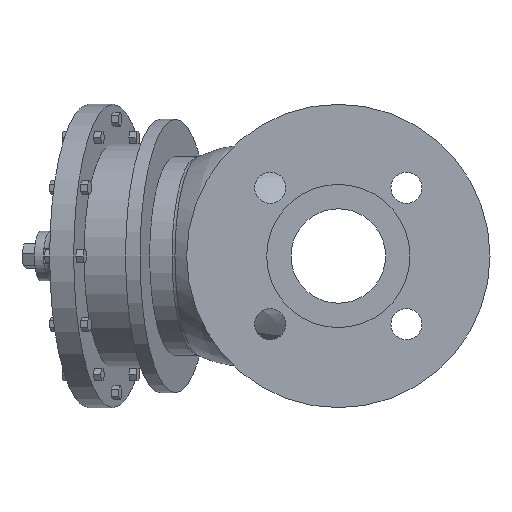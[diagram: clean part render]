
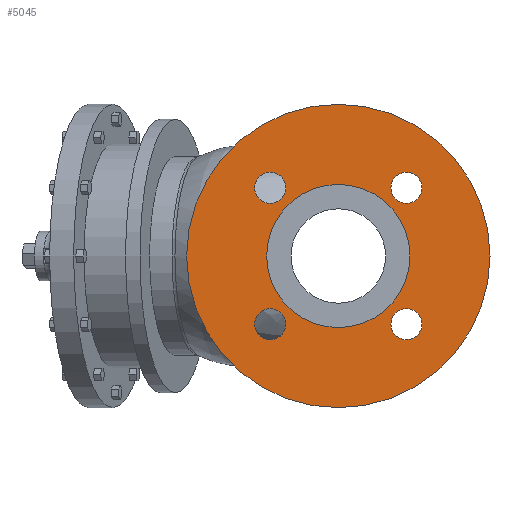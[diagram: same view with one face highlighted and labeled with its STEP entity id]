
A CAD part, left-side view. The second image highlights one B-rep face of the part: STEP entity #5045.
In plain terms, the highlighted planar face has unit normal (-1, 0, 0).
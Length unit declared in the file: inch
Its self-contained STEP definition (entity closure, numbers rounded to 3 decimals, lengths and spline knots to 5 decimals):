
#256=PLANE('',#5393);
#303=FACE_BOUND('',#928,.T.);
#304=FACE_BOUND('',#929,.T.);
#305=FACE_BOUND('',#930,.T.);
#306=FACE_BOUND('',#931,.T.);
#307=FACE_BOUND('',#932,.T.);
#629=FACE_OUTER_BOUND('',#927,.T.);
#927=EDGE_LOOP('',(#4456,#4457));
#928=EDGE_LOOP('',(#4458));
#929=EDGE_LOOP('',(#4459));
#930=EDGE_LOOP('',(#4460));
#931=EDGE_LOOP('',(#4461));
#932=EDGE_LOOP('',(#4462,#4463));
#1994=CIRCLE('',#5074,0.3125);
#1996=CIRCLE('',#5077,0.3125);
#1998=CIRCLE('',#5080,0.3125);
#2000=CIRCLE('',#5083,0.3125);
#2073=CIRCLE('',#5391,1.44);
#2074=CIRCLE('',#5392,1.44);
#2075=CIRCLE('',#5394,3.05);
#2076=CIRCLE('',#5395,3.05);
#2087=VERTEX_POINT('',#6655);
#2089=VERTEX_POINT('',#6661);
#2091=VERTEX_POINT('',#6667);
#2093=VERTEX_POINT('',#6673);
#2522=VERTEX_POINT('',#9152);
#2523=VERTEX_POINT('',#9153);
#2524=VERTEX_POINT('',#9158);
#2525=VERTEX_POINT('',#9159);
#2536=EDGE_CURVE('',#2087,#2087,#1994,.T.);
#2539=EDGE_CURVE('',#2089,#2089,#1996,.T.);
#2542=EDGE_CURVE('',#2091,#2091,#1998,.T.);
#2545=EDGE_CURVE('',#2093,#2093,#2000,.T.);
#3176=EDGE_CURVE('',#2522,#2523,#2073,.T.);
#3177=EDGE_CURVE('',#2523,#2522,#2074,.T.);
#3179=EDGE_CURVE('',#2524,#2525,#2075,.T.);
#3180=EDGE_CURVE('',#2525,#2524,#2076,.T.);
#4456=ORIENTED_EDGE('',*,*,#3179,.F.);
#4457=ORIENTED_EDGE('',*,*,#3180,.F.);
#4458=ORIENTED_EDGE('',*,*,#2536,.T.);
#4459=ORIENTED_EDGE('',*,*,#2539,.T.);
#4460=ORIENTED_EDGE('',*,*,#2542,.T.);
#4461=ORIENTED_EDGE('',*,*,#2545,.T.);
#4462=ORIENTED_EDGE('',*,*,#3176,.T.);
#4463=ORIENTED_EDGE('',*,*,#3177,.T.);
#5045=ADVANCED_FACE('',(#629,#303,#304,#305,#306,#307),#256,.T.);
#5074=AXIS2_PLACEMENT_3D('',#6656,#5430,#5431);
#5077=AXIS2_PLACEMENT_3D('',#6662,#5437,#5438);
#5080=AXIS2_PLACEMENT_3D('',#6668,#5444,#5445);
#5083=AXIS2_PLACEMENT_3D('',#6674,#5451,#5452);
#5391=AXIS2_PLACEMENT_3D('',#9154,#6579,#6580);
#5392=AXIS2_PLACEMENT_3D('',#9155,#6581,#6582);
#5393=AXIS2_PLACEMENT_3D('',#9157,#6584,#6585);
#5394=AXIS2_PLACEMENT_3D('',#9160,#6586,#6587);
#5395=AXIS2_PLACEMENT_3D('',#9161,#6588,#6589);
#5430=DIRECTION('center_axis',(1.,0.,0.));
#5431=DIRECTION('ref_axis',(0.,1.,0.));
#5437=DIRECTION('center_axis',(1.,0.,0.));
#5438=DIRECTION('ref_axis',(0.,0.,-1.));
#5444=DIRECTION('center_axis',(1.,0.,0.));
#5445=DIRECTION('ref_axis',(0.,-1.,0.));
#5451=DIRECTION('center_axis',(1.,0.,0.));
#5452=DIRECTION('ref_axis',(0.,0.,1.));
#6579=DIRECTION('center_axis',(1.,0.,0.));
#6580=DIRECTION('ref_axis',(0.,0.,-1.));
#6581=DIRECTION('center_axis',(1.,0.,0.));
#6582=DIRECTION('ref_axis',(0.,0.,-1.));
#6584=DIRECTION('center_axis',(-1.,0.,0.));
#6585=DIRECTION('ref_axis',(0.,0.,1.));
#6586=DIRECTION('center_axis',(1.,0.,0.));
#6587=DIRECTION('ref_axis',(0.,0.,-1.));
#6588=DIRECTION('center_axis',(1.,0.,0.));
#6589=DIRECTION('ref_axis',(0.,0.,-1.));
#6655=CARTESIAN_POINT('',(-3.975,-1.68252,-1.37002));
#6656=CARTESIAN_POINT('Origin',(-3.975,-1.37002,-1.37002));
#6661=CARTESIAN_POINT('',(-3.975,-1.37002,1.68252));
#6662=CARTESIAN_POINT('Origin',(-3.975,-1.37002,1.37002));
#6667=CARTESIAN_POINT('',(-3.975,1.68252,1.37002));
#6668=CARTESIAN_POINT('Origin',(-3.975,1.37002,1.37002));
#6673=CARTESIAN_POINT('',(-3.975,1.37002,-1.68252));
#6674=CARTESIAN_POINT('Origin',(-3.975,1.37002,-1.37002));
#9152=CARTESIAN_POINT('',(-3.975,1.44,0.));
#9153=CARTESIAN_POINT('',(-3.975,-1.44,0.));
#9154=CARTESIAN_POINT('Origin',(-3.975,0.,0.));
#9155=CARTESIAN_POINT('Origin',(-3.975,0.,0.));
#9157=CARTESIAN_POINT('Origin',(-3.975,3.05,0.));
#9158=CARTESIAN_POINT('',(-3.975,3.05,0.));
#9159=CARTESIAN_POINT('',(-3.975,-3.05,0.));
#9160=CARTESIAN_POINT('Origin',(-3.975,0.,0.));
#9161=CARTESIAN_POINT('Origin',(-3.975,0.,0.));
